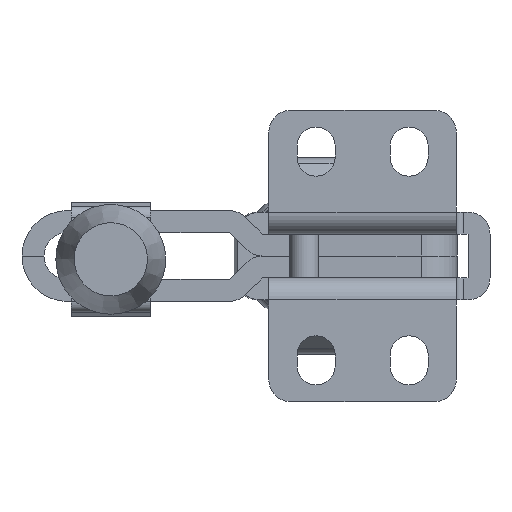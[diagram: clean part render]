
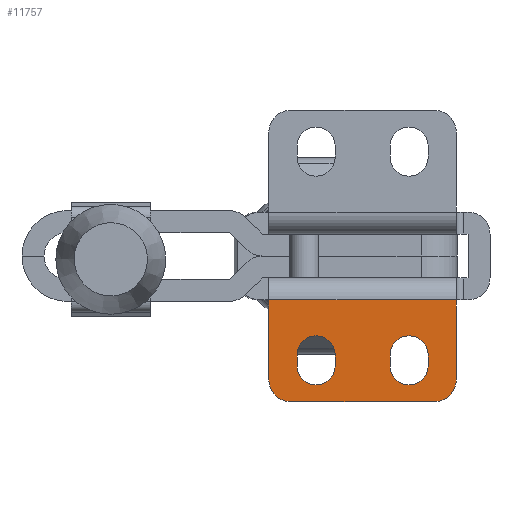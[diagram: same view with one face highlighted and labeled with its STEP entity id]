
A CAD part, front view. The second image highlights one B-rep face of the part: STEP entity #11757.
In plain terms, the highlighted planar face has unit normal (0, -1, 0).
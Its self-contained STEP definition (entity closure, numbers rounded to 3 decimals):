
#832=FACE_BOUND('',#1878,.T.);
#833=FACE_BOUND('',#1879,.T.);
#914=PLANE('',#12668);
#1222=FACE_OUTER_BOUND('',#1877,.T.);
#1877=EDGE_LOOP('',(#8104,#8105,#8106,#8107,#8108,#8109));
#1878=EDGE_LOOP('',(#8110,#8111,#8112,#8113));
#1879=EDGE_LOOP('',(#8114,#8115,#8116,#8117));
#2617=LINE('',#16153,#3641);
#2633=LINE('',#16195,#3657);
#2637=LINE('',#16203,#3661);
#2638=LINE('',#16207,#3662);
#2639=LINE('',#16210,#3663);
#2640=LINE('',#16212,#3664);
#2641=LINE('',#16215,#3665);
#2642=LINE('',#16217,#3666);
#3641=VECTOR('',#13527,1000.);
#3657=VECTOR('',#13571,1000.);
#3661=VECTOR('',#13579,1000.);
#3662=VECTOR('',#13582,1000.);
#3663=VECTOR('',#13585,1000.);
#3664=VECTOR('',#13586,1000.);
#3665=VECTOR('',#13589,1000.);
#3666=VECTOR('',#13590,1000.);
#4630=CIRCLE('',#12608,2.6);
#4632=CIRCLE('',#12611,2.6);
#4671=CIRCLE('',#12669,3.);
#4672=CIRCLE('',#12670,3.);
#4673=CIRCLE('',#12671,2.6);
#4674=CIRCLE('',#12672,2.6);
#4936=VERTEX_POINT('',#16005);
#4937=VERTEX_POINT('',#16006);
#4940=VERTEX_POINT('',#16014);
#4941=VERTEX_POINT('',#16015);
#5002=VERTEX_POINT('',#16150);
#5003=VERTEX_POINT('',#16152);
#5014=VERTEX_POINT('',#16193);
#5015=VERTEX_POINT('',#16194);
#5018=VERTEX_POINT('',#16204);
#5019=VERTEX_POINT('',#16206);
#5020=VERTEX_POINT('',#16209);
#5021=VERTEX_POINT('',#16211);
#5022=VERTEX_POINT('',#16214);
#5023=VERTEX_POINT('',#16216);
#6163=EDGE_CURVE('',#4936,#4937,#4630,.T.);
#6167=EDGE_CURVE('',#4940,#4941,#4632,.T.);
#6233=EDGE_CURVE('',#5002,#5003,#2617,.T.);
#6254=EDGE_CURVE('',#5014,#5015,#2633,.T.);
#6259=EDGE_CURVE('',#5002,#5014,#2637,.T.);
#6260=EDGE_CURVE('',#5018,#5015,#4671,.T.);
#6261=EDGE_CURVE('',#5018,#5019,#2638,.T.);
#6262=EDGE_CURVE('',#5003,#5019,#4672,.T.);
#6263=EDGE_CURVE('',#4937,#5020,#2639,.T.);
#6264=EDGE_CURVE('',#5021,#4936,#2640,.T.);
#6265=EDGE_CURVE('',#5020,#5021,#4673,.T.);
#6266=EDGE_CURVE('',#4941,#5022,#2641,.T.);
#6267=EDGE_CURVE('',#5023,#4940,#2642,.T.);
#6268=EDGE_CURVE('',#5022,#5023,#4674,.T.);
#8104=ORIENTED_EDGE('',*,*,#6233,.F.);
#8105=ORIENTED_EDGE('',*,*,#6259,.T.);
#8106=ORIENTED_EDGE('',*,*,#6254,.T.);
#8107=ORIENTED_EDGE('',*,*,#6260,.F.);
#8108=ORIENTED_EDGE('',*,*,#6261,.T.);
#8109=ORIENTED_EDGE('',*,*,#6262,.F.);
#8110=ORIENTED_EDGE('',*,*,#6263,.F.);
#8111=ORIENTED_EDGE('',*,*,#6163,.F.);
#8112=ORIENTED_EDGE('',*,*,#6264,.F.);
#8113=ORIENTED_EDGE('',*,*,#6265,.F.);
#8114=ORIENTED_EDGE('',*,*,#6266,.F.);
#8115=ORIENTED_EDGE('',*,*,#6167,.F.);
#8116=ORIENTED_EDGE('',*,*,#6267,.F.);
#8117=ORIENTED_EDGE('',*,*,#6268,.F.);
#11757=ADVANCED_FACE('',(#1222,#832,#833),#914,.F.);
#12608=AXIS2_PLACEMENT_3D('',#16007,#13402,#13403);
#12611=AXIS2_PLACEMENT_3D('',#16016,#13410,#13411);
#12668=AXIS2_PLACEMENT_3D('',#16202,#13577,#13578);
#12669=AXIS2_PLACEMENT_3D('',#16205,#13580,#13581);
#12670=AXIS2_PLACEMENT_3D('',#16208,#13583,#13584);
#12671=AXIS2_PLACEMENT_3D('',#16213,#13587,#13588);
#12672=AXIS2_PLACEMENT_3D('',#16218,#13591,#13592);
#13402=DIRECTION('center_axis',(0.,-1.,0.));
#13403=DIRECTION('ref_axis',(-1.,0.,0.));
#13410=DIRECTION('center_axis',(0.,-1.,0.));
#13411=DIRECTION('ref_axis',(-1.,0.,0.));
#13527=DIRECTION('',(0.,0.,-1.));
#13571=DIRECTION('',(0.,0.,-1.));
#13577=DIRECTION('center_axis',(0.,1.,0.));
#13578=DIRECTION('ref_axis',(-1.,0.,0.));
#13579=DIRECTION('',(-1.,0.,0.));
#13580=DIRECTION('center_axis',(0.,1.,0.));
#13581=DIRECTION('ref_axis',(-1.,0.,0.));
#13582=DIRECTION('',(1.,0.,0.));
#13583=DIRECTION('center_axis',(0.,1.,0.));
#13584=DIRECTION('ref_axis',(-1.,0.,0.));
#13585=DIRECTION('',(0.,0.,1.));
#13586=DIRECTION('',(0.,0.,-1.));
#13587=DIRECTION('center_axis',(0.,-1.,0.));
#13588=DIRECTION('ref_axis',(-1.,0.,0.));
#13589=DIRECTION('',(0.,0.,1.));
#13590=DIRECTION('',(0.,0.,-1.));
#13591=DIRECTION('center_axis',(0.,-1.,0.));
#13592=DIRECTION('ref_axis',(-1.,0.,0.));
#16005=CARTESIAN_POINT('',(-21.75,0.,-9.));
#16006=CARTESIAN_POINT('',(-16.55,0.,-9.));
#16007=CARTESIAN_POINT('Origin',(-19.15,0.,-9.));
#16014=CARTESIAN_POINT('',(-9.05,0.,-9.));
#16015=CARTESIAN_POINT('',(-3.85,0.,-9.));
#16016=CARTESIAN_POINT('Origin',(-6.45,0.,-9.));
#16150=CARTESIAN_POINT('',(0.,0.,0.));
#16152=CARTESIAN_POINT('',(0.,0.,-10.9));
#16153=CARTESIAN_POINT('',(0.,0.,12.));
#16193=CARTESIAN_POINT('',(-25.6,0.,0.));
#16194=CARTESIAN_POINT('',(-25.6,0.,-10.9));
#16195=CARTESIAN_POINT('',(-25.6,0.,12.));
#16202=CARTESIAN_POINT('Origin',(0.,0.,12.));
#16203=CARTESIAN_POINT('',(0.,0.,0.));
#16204=CARTESIAN_POINT('',(-22.6,0.,-13.9));
#16205=CARTESIAN_POINT('Origin',(-22.6,0.,-10.9));
#16206=CARTESIAN_POINT('',(-3.,0.,-13.9));
#16207=CARTESIAN_POINT('',(0.,0.,-13.9));
#16208=CARTESIAN_POINT('Origin',(-3.,0.,-10.9));
#16209=CARTESIAN_POINT('',(-16.55,0.,-7.5));
#16210=CARTESIAN_POINT('',(-16.55,0.,0.));
#16211=CARTESIAN_POINT('',(-21.75,0.,-7.5));
#16212=CARTESIAN_POINT('',(-21.75,0.,0.));
#16213=CARTESIAN_POINT('Origin',(-19.15,0.,-7.5));
#16214=CARTESIAN_POINT('',(-3.85,0.,-7.5));
#16215=CARTESIAN_POINT('',(-3.85,0.,0.));
#16216=CARTESIAN_POINT('',(-9.05,0.,-7.5));
#16217=CARTESIAN_POINT('',(-9.05,0.,0.));
#16218=CARTESIAN_POINT('Origin',(-6.45,0.,-7.5));
